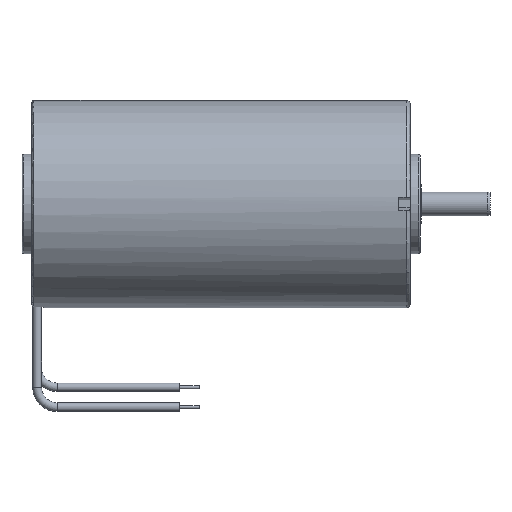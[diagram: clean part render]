
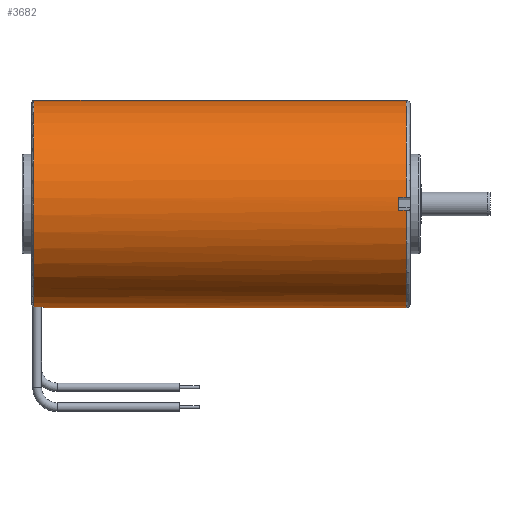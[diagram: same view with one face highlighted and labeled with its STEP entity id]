
A CAD part, top view. The second image highlights one B-rep face of the part: STEP entity #3682.
In plain terms, the highlighted cylindrical face has radius 26 mm (diameter 52 mm), a partial arc.
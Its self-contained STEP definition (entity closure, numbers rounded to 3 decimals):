
#1047=CARTESIAN_POINT('',(-94.5,0.,0.));
#1048=DIRECTION('',(-1.,0.,0.));
#1049=DIRECTION('',(0.,-0.993,0.115));
#1050=AXIS2_PLACEMENT_3D('',#1047,#1048,#1049);
#1081=DIRECTION('',(-1.,0.,0.));
#1082=VECTOR('',#1081,93.5);
#1083=CARTESIAN_POINT('',(-1.,26.,0.));
#1084=LINE('',#1083,#1082);
#1085=DIRECTION('',(-1.,0.,0.));
#1086=VECTOR('',#1085,91.2);
#1087=CARTESIAN_POINT('',(-1.,-26.,0.));
#1088=LINE('',#1087,#1086);
#1089=CARTESIAN_POINT('',(-3.,0.,0.));
#1090=DIRECTION('',(1.,0.,0.));
#1091=DIRECTION('',(0.,0.064,0.998));
#1092=AXIS2_PLACEMENT_3D('',#1089,#1090,#1091);
#1123=DIRECTION('',(1.,0.,0.));
#1124=VECTOR('',#1123,2.);
#1125=CARTESIAN_POINT('',(-3.,-1.669,25.946));
#1126=LINE('',#1125,#1124);
#1521=DIRECTION('',(1.,0.,0.));
#1522=VECTOR('',#1521,2.);
#1523=CARTESIAN_POINT('',(-3.,1.669,25.946));
#1524=LINE('',#1523,#1522);
#1525=CARTESIAN_POINT('',(-1.,0.,0.));
#1526=DIRECTION('',(-1.,0.,0.));
#1527=DIRECTION('',(0.,0.064,0.998));
#1528=AXIS2_PLACEMENT_3D('',#1525,#1526,#1527);
#1583=CARTESIAN_POINT('',(-1.,0.,0.));
#1584=DIRECTION('',(-1.,0.,0.));
#1585=DIRECTION('',(0.,-1.,0.));
#1586=AXIS2_PLACEMENT_3D('',#1583,#1584,#1585);
#1615=CARTESIAN_POINT('',(-92.2,0.,0.));
#1616=DIRECTION('',(1.,0.,0.));
#1617=DIRECTION('',(0.,-0.993,0.115));
#1618=AXIS2_PLACEMENT_3D('',#1615,#1616,#1617);
#1670=DIRECTION('',(1.,0.,0.));
#1671=VECTOR('',#1670,2.3);
#1672=CARTESIAN_POINT('',(-94.5,-25.826,3.));
#1673=LINE('',#1672,#1671);
#1958=CARTESIAN_POINT('',(-92.2,-25.826,3.));
#1959=CARTESIAN_POINT('',(-92.2,-26.,0.));
#1960=VERTEX_POINT('',#1958);
#1961=VERTEX_POINT('',#1959);
#2144=CARTESIAN_POINT('',(-94.5,26.,0.));
#2146=VERTEX_POINT('',#2144);
#2149=CARTESIAN_POINT('',(-94.5,-25.826,3.));
#2150=VERTEX_POINT('',#2149);
#2296=CARTESIAN_POINT('',(-1.,-26.,0.));
#2297=VERTEX_POINT('',#2296);
#2298=CARTESIAN_POINT('',(-1.,26.,0.));
#2299=VERTEX_POINT('',#2298);
#2300=CARTESIAN_POINT('',(-3.,1.669,25.946));
#2301=CARTESIAN_POINT('',(-3.,-1.669,25.946));
#2302=VERTEX_POINT('',#2300);
#2303=VERTEX_POINT('',#2301);
#2332=CARTESIAN_POINT('',(-1.,1.669,25.946));
#2333=VERTEX_POINT('',#2332);
#2334=CARTESIAN_POINT('',(-1.,-1.669,25.946));
#2335=VERTEX_POINT('',#2334);
#3659=CARTESIAN_POINT('',(-102.5,0.,0.));
#3660=DIRECTION('',(1.,0.,0.));
#3661=DIRECTION('',(0.,-1.,0.));
#3662=AXIS2_PLACEMENT_3D('',#3659,#3660,#3661);
#3663=CYLINDRICAL_SURFACE('',#3662,26.);
#3664=ORIENTED_EDGE('',*,*,#3633,.T.);
#3666=ORIENTED_EDGE('',*,*,#3665,.T.);
#3668=ORIENTED_EDGE('',*,*,#3667,.F.);
#3669=ORIENTED_EDGE('',*,*,#3619,.T.);
#3671=ORIENTED_EDGE('',*,*,#3670,.F.);
#3673=ORIENTED_EDGE('',*,*,#3672,.F.);
#3674=ORIENTED_EDGE('',*,*,#3591,.T.);
#3675=ORIENTED_EDGE('',*,*,#3612,.F.);
#3677=ORIENTED_EDGE('',*,*,#3676,.F.);
#3679=ORIENTED_EDGE('',*,*,#3678,.F.);
#3680=EDGE_LOOP('',(#3664,#3666,#3668,#3669,#3671,#3673,#3674,#3675,#3677,
#3679));
#3681=FACE_OUTER_BOUND('',#3680,.F.);
#3682=ADVANCED_FACE('',(#3681),#3663,.T.);
#1051=CIRCLE('',#1050,26.);
#1093=CIRCLE('',#1092,26.);
#1529=CIRCLE('',#1528,26.);
#1587=CIRCLE('',#1586,26.);
#1619=CIRCLE('',#1618,26.);
#3591=EDGE_CURVE('',#2150,#2146,#1051,.T.);
#3612=EDGE_CURVE('',#2299,#2146,#1084,.T.);
#3619=EDGE_CURVE('',#2297,#1961,#1088,.T.);
#3633=EDGE_CURVE('',#2302,#2303,#1093,.T.);
#3665=EDGE_CURVE('',#2303,#2335,#1126,.T.);
#3667=EDGE_CURVE('',#2297,#2335,#1587,.T.);
#3670=EDGE_CURVE('',#1960,#1961,#1619,.T.);
#3672=EDGE_CURVE('',#2150,#1960,#1673,.T.);
#3676=EDGE_CURVE('',#2333,#2299,#1529,.T.);
#3678=EDGE_CURVE('',#2302,#2333,#1524,.T.);
